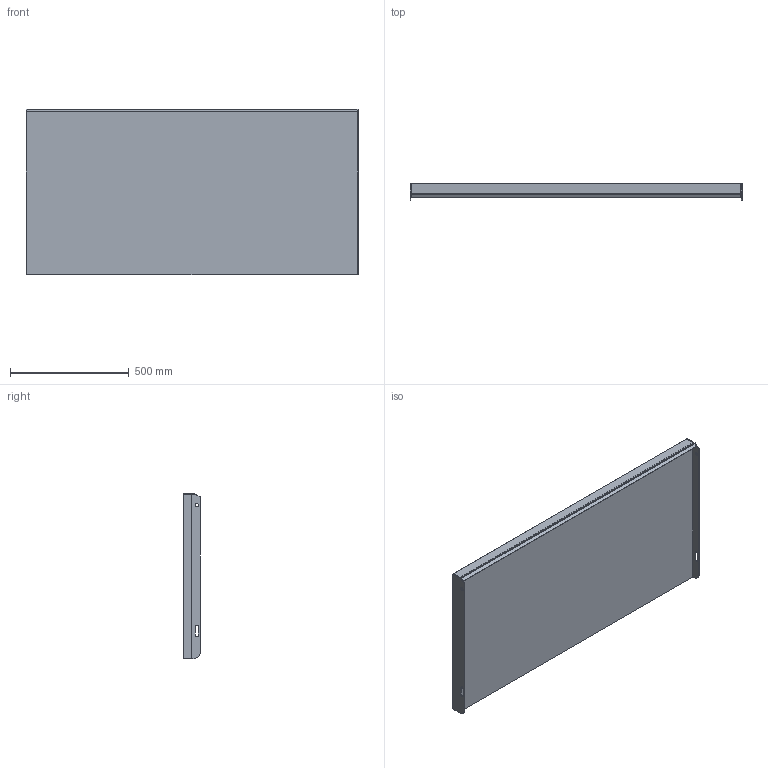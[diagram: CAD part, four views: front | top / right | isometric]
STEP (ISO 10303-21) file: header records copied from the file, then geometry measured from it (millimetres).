
FILE_DESCRIPTION (( 'STEP AP203' ), '1' );
FILE_NAME ('148814071, Plan TH6, 1400x700, vfz.STEP', '2020-10-21T13:21:03', ( '' ), ( '' ), 'SwSTEP 2.0', 'SolidWorks 2019', '' );
FILE_SCHEMA (( 'CONFIG_CONTROL_DESIGN' ));
Length unit declared in the file: millimetre
Products named in the file (4): SW0000041386; SW0000041807; 148814071, Plan TH6, 1400x700, vfz; SW0000041756
Assembly tree (4 placements, depth 2):
  148814071, Plan TH6, 1400x700, vfz
    SW0000041807
    SW0000041386  x2
    SW0000041756
Bounding box: 1400 x 70 x 697 mm (x, y, z)
Volume: 34396970 mm3; surface area: 2457691.9 mm2
Topology: 4 solids, 4 shells, 59 faces, 142 edges, 92 vertices
Faces by surface type: plane 45, cylinder 14
Entity records: 1693 total; most frequent: DIRECTION 221, CARTESIAN_POINT 220, ORIENTED_EDGE 206, EDGE_CURVE 103, LINE 87, VECTOR 87, AXIS2_PLACEMENT_3D 67, VERTEX_POINT 66
